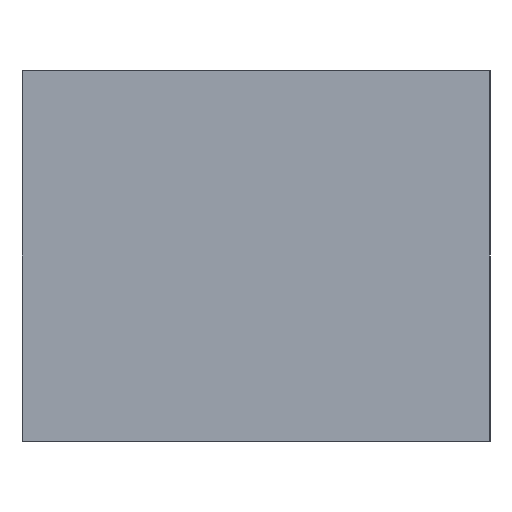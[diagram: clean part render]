
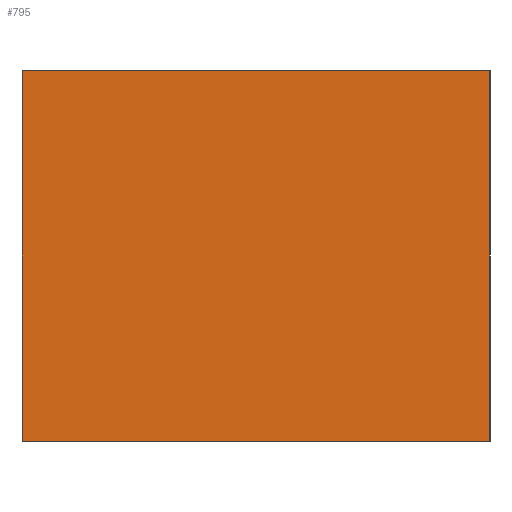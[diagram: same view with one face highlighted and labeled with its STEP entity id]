
A CAD part, left-side view. The second image highlights one B-rep face of the part: STEP entity #795.
In plain terms, the highlighted planar face has unit normal (-1, 0, 0).
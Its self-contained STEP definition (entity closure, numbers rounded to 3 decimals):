
#17 = ORIENTED_EDGE ( 'NONE', *, *, #252, .T. ) ;
#61 = DIRECTION ( 'NONE',  ( 0., 0., -1. ) ) ;
#94 = CARTESIAN_POINT ( 'NONE',  ( 0., 48., 19. ) ) ;
#104 = VECTOR ( 'NONE', #417, 1000. ) ;
#145 = LINE ( 'NONE', #457, #960 ) ;
#196 = ORIENTED_EDGE ( 'NONE', *, *, #318, .F. ) ;
#231 = CARTESIAN_POINT ( 'NONE',  ( 0., 0., 19. ) ) ;
#238 = PLANE ( 'NONE',  #388 ) ;
#252 = EDGE_CURVE ( 'NONE', #808, #385, #918, .T. ) ;
#253 = CARTESIAN_POINT ( 'NONE',  ( 0., 0., -19. ) ) ;
#294 = VECTOR ( 'NONE', #848, 1000. ) ;
#295 = CARTESIAN_POINT ( 'NONE',  ( 0., 48., -19. ) ) ;
#318 = EDGE_CURVE ( 'NONE', #808, #564, #556, .T. ) ;
#374 = EDGE_CURVE ( 'NONE', #385, #949, #541, .T. ) ;
#385 = VERTEX_POINT ( 'NONE', #295 ) ;
#388 = AXIS2_PLACEMENT_3D ( 'NONE', #231, #936, #780 ) ;
#417 = DIRECTION ( 'NONE',  ( 0., 0., -1. ) ) ;
#422 = VECTOR ( 'NONE', #931, 1000. ) ;
#457 = CARTESIAN_POINT ( 'NONE',  ( 0., 0., 19. ) ) ;
#486 = FACE_OUTER_BOUND ( 'NONE', #983, .T. ) ;
#506 = CARTESIAN_POINT ( 'NONE',  ( 0., 48., 19. ) ) ;
#541 = LINE ( 'NONE', #632, #422 ) ;
#552 = EDGE_CURVE ( 'NONE', #564, #949, #145, .T. ) ;
#556 = LINE ( 'NONE', #687, #294 ) ;
#564 = VERTEX_POINT ( 'NONE', #768 ) ;
#568 = ORIENTED_EDGE ( 'NONE', *, *, #552, .F. ) ;
#632 = CARTESIAN_POINT ( 'NONE',  ( 0., 0., -19. ) ) ;
#687 = CARTESIAN_POINT ( 'NONE',  ( 0., 0., 19. ) ) ;
#768 = CARTESIAN_POINT ( 'NONE',  ( 0., 0., 19. ) ) ;
#780 = DIRECTION ( 'NONE',  ( 0., 0., -1. ) ) ;
#795 = ADVANCED_FACE ( 'NONE', ( #486 ), #238, .F. ) ;
#808 = VERTEX_POINT ( 'NONE', #94 ) ;
#848 = DIRECTION ( 'NONE',  ( 0., -1., 0. ) ) ;
#878 = ORIENTED_EDGE ( 'NONE', *, *, #374, .T. ) ;
#918 = LINE ( 'NONE', #506, #104 ) ;
#931 = DIRECTION ( 'NONE',  ( 0., -1., 0. ) ) ;
#936 = DIRECTION ( 'NONE',  ( 1., 0., 0. ) ) ;
#949 = VERTEX_POINT ( 'NONE', #253 ) ;
#960 = VECTOR ( 'NONE', #61, 1000. ) ;
#983 = EDGE_LOOP ( 'NONE', ( #878, #568, #196, #17 ) ) ;
